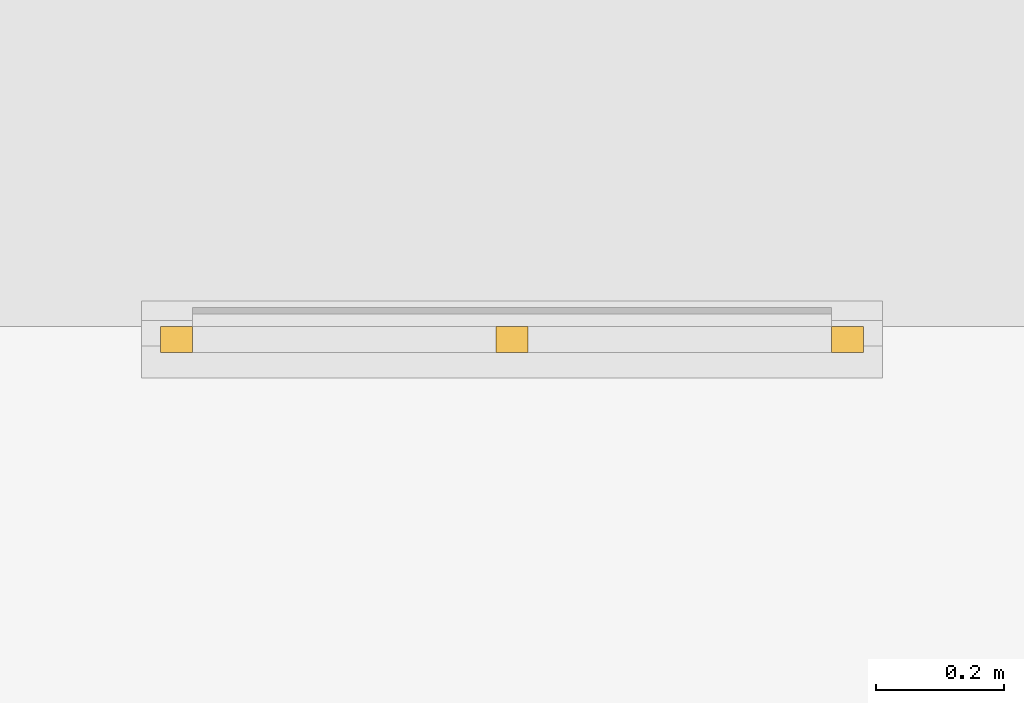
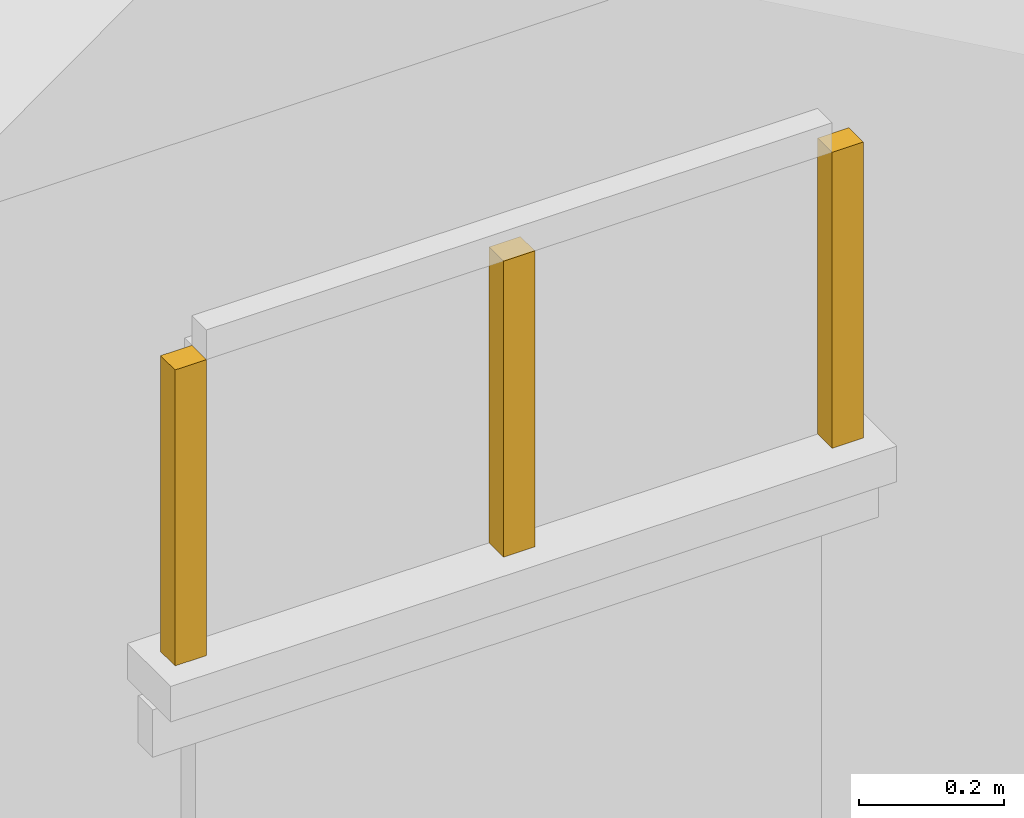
# One storey, part 89 of 177: 3 windows.
"""IFC4 building model written with IfcOpenShell, lengths in metres."""

from ifc_helpers import new_model, si_unit, origin, origin_with_axes, place, context, subcontext, project, spatial, triangles, element, save


model = new_model("IFC4")

# Units and contexts
model_context = context("Model", 3, precision=1e-05, world=origin_with_axes())
body_context = subcontext(model_context, "Body", "Model", "MODEL_VIEW")
ifc_project = project(units=[si_unit("LENGTHUNIT", "METRE"), si_unit("AREAUNIT", "SQUARE_METRE"), si_unit("VOLUMEUNIT", "CUBIC_METRE"), si_unit("PLANEANGLEUNIT", "RADIAN")], contexts=[model_context])

# Site, building, storey
site_placement = place(None, origin_with_axes())
site = spatial("IfcSite", under=ifc_project, at=site_placement, Name="Predio Los Mangos - Morales, San Martín", CompositionType="ELEMENT")
building_placement = place(site_placement, origin())
building = spatial("IfcBuilding", under=site, at=building_placement, Name="Hogar de Refugio Temporal", CompositionType="ELEMENT")
storey_placement = place(building_placement, origin())
storey = spatial("IfcBuildingStorey", under=building, at=storey_placement, Name="NIVEL 1 (NPT +0.00)", CompositionType="ELEMENT", Elevation=0.0)

# Windows
window_1_placement = place(storey_placement, origin())
element("IfcWindow", 1, at=window_1_placement, inside=storey, Name="E-08_vt1_m", ObjectType="Ventana", PredefinedType="WINDOW", context=body_context, shape_type="Tessellation", body=[
    triangles([(36.79, 116.92, 2.45), (36.84, 116.92, 2.45), (36.84, 116.96, 2.45), (36.79, 116.96, 2.45), (36.79, 116.92, 2.95), (36.84, 116.92, 2.95), (36.84, 116.96, 2.95), (36.79, 116.96, 2.95)], [[1, 4, 3], [1, 3, 2], [5, 6, 7], [5, 7, 8], [1, 2, 6], [1, 6, 5], [2, 3, 7], [2, 7, 6], [3, 4, 8], [3, 8, 7], [4, 1, 5], [4, 5, 8]]),
])
window_2_placement = place(storey_placement, origin())
element("IfcWindow", 2, at=window_2_placement, inside=storey, Name="E-08_vt1_m", ObjectType="Ventana", PredefinedType="WINDOW", context=body_context, shape_type="Tessellation", body=[
    triangles([(37.84, 116.92, 2.45), (37.89, 116.92, 2.45), (37.89, 116.96, 2.45), (37.84, 116.96, 2.45), (37.84, 116.92, 2.95), (37.89, 116.92, 2.95), (37.89, 116.96, 2.95), (37.84, 116.96, 2.95)], [[1, 4, 3], [1, 3, 2], [5, 6, 7], [5, 7, 8], [1, 2, 6], [1, 6, 5], [2, 3, 7], [2, 7, 6], [3, 4, 8], [3, 8, 7], [4, 1, 5], [4, 5, 8]]),
])
window_3_placement = place(storey_placement, origin())
element("IfcWindow", 3, at=window_3_placement, inside=storey, Name="E-08_vt1_m", ObjectType="Ventana", PredefinedType="WINDOW", context=body_context, shape_type="Tessellation", body=[
    triangles([(37.315, 116.92, 2.45), (37.365, 116.92, 2.45), (37.365, 116.96, 2.45), (37.315, 116.96, 2.45), (37.315, 116.92, 2.95), (37.365, 116.92, 2.95), (37.365, 116.96, 2.95), (37.315, 116.96, 2.95)], [[1, 4, 3], [1, 3, 2], [5, 6, 7], [5, 7, 8], [1, 2, 6], [1, 6, 5], [2, 3, 7], [2, 7, 6], [3, 4, 8], [3, 8, 7], [4, 1, 5], [4, 5, 8]]),
])

save(model, "model.ifc")
